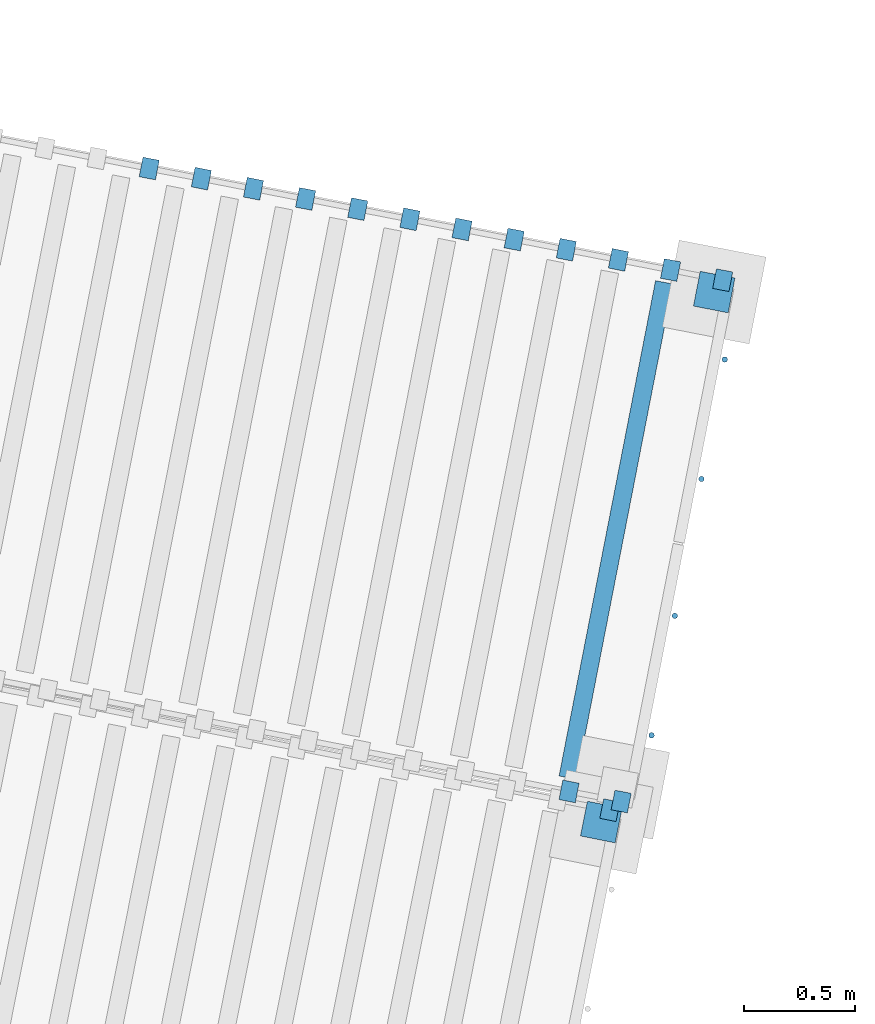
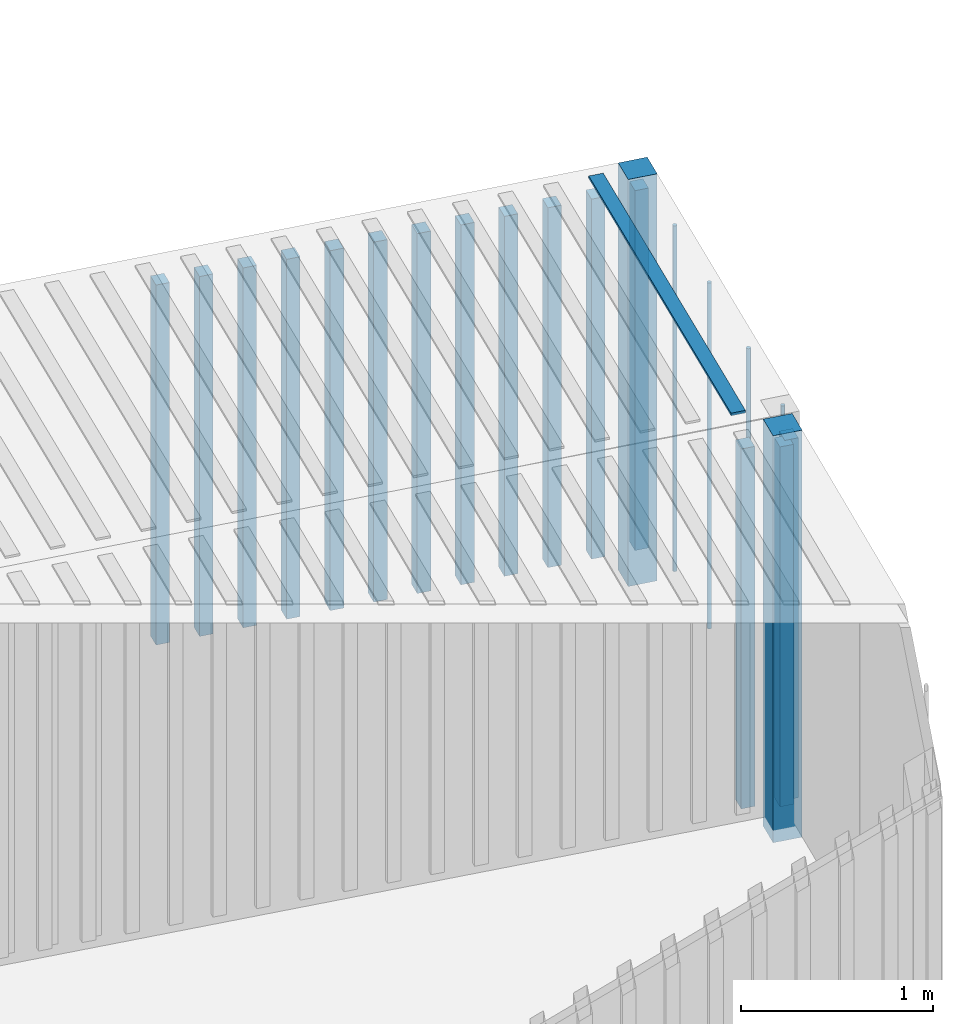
# One storey, part 83 of 131: 22 members, 2 elements without a shape of their own.
"""IFC4 building model written with IfcOpenShell, lengths in metres."""

from ifc_helpers import new_model, si_unit, direction, frame, origin_with_axes, place, context, subcontext, project, spatial, polyline, circle, outline, extrude, material, material_profile, profile_set, profile_usage, type_object, element, aggregate, save


model = new_model("IFC4")

# Units and contexts
model_context = context("Model", 3, precision=1e-05, world=origin_with_axes(), true_north=direction((0.0, 1.0)))
body_context = subcontext(model_context, "Body", "Model", "MODEL_VIEW")
ifc_project = project(units=[si_unit("VOLUMEUNIT", "CUBIC_METRE"), si_unit("LENGTHUNIT", "METRE"), si_unit("AREAUNIT", "SQUARE_METRE")], contexts=[model_context])

# Site, building, storey
site_placement = place(None, origin_with_axes())
site = spatial("IfcSite", under=ifc_project, at=site_placement, Name="Lares · Rua das Mercês · artigo 4771")
building_placement = place(site_placement, frame((15.0, 9.7, 14.65), z_axis=(0.0, 0.0, 1.0), x_axis=(0.989015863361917, -0.147809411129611, 0.0)))
building = spatial("IfcBuilding", under=site, at=building_placement, Name="Casa Sobreposta")
storey_placement = place(building_placement, origin_with_axes())
storey = spatial("IfcBuildingStorey", under=building, at=storey_placement, Name="00 · Habitação e estacionamento", Elevation=14.65)

# Assembly, members
assembly_1_placement = place(storey_placement, frame((-14.4335953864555, 9.04888612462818, 0.0), z_axis=(0.0, 0.0, 1.0), x_axis=(0.999032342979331, -0.0439815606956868, 0.0)))
assembly_1 = element("IfcElementAssembly", 1, at=assembly_1_placement, inside=storey, Name="Contentor existente 1 · 6 m", ObjectType="EXISTING_SHIPPING_CONTAINER", PredefinedType="USERDEFINED")
ifc_material_1 = material(Name="Aço galvanizado / Stahl verzinkt", Category="steel")
ifc_material_profile = material_profile(ifc_material_1, circle(Radius=0.0125))
ifc_profile_set = profile_set([ifc_material_profile], Name="D0.025")
ifc_profile_usage_1 = profile_usage(ifc_profile_set)
member_type = type_object("IfcMemberType", Name="D0.025 / galvanized", PredefinedType="NOTDEFINED", material=ifc_profile_set)
member_1_placement = place(assembly_1_placement, frame((6.025, 0.34, -1.1), z_axis=(0.0, 0.0, 1.0), x_axis=(1.0, 0.0, 0.0)))
member_1 = element("IfcMember", 2, at=member_1_placement, type_object=member_type, material=ifc_profile_usage_1, Name="Contentor · varão de fecho", context=body_context, shape_type="SweptSolid", body=[
    extrude(circle(Radius=0.0125), origin_with_axes(), (0.0, 0.0, 1.0), 2.2),
])
ifc_profile_usage_2 = profile_usage(ifc_profile_set)
member_2_placement = place(assembly_1_placement, frame((6.025, 0.89, -1.1), z_axis=(0.0, 0.0, 1.0), x_axis=(1.0, 0.0, 0.0)))
member_2 = element("IfcMember", 3, at=member_2_placement, type_object=member_type, material=ifc_profile_usage_2, Name="Contentor · varão de fecho", context=body_context, shape_type="SweptSolid", body=[
    extrude(circle(Radius=0.0125), origin_with_axes(), (0.0, 0.0, 1.0), 2.2),
])
ifc_profile_usage_3 = profile_usage(ifc_profile_set)
member_3_placement = place(assembly_1_placement, frame((6.025, 1.52, -1.1), z_axis=(0.0, 0.0, 1.0), x_axis=(1.0, 0.0, 0.0)))
member_3 = element("IfcMember", 4, at=member_3_placement, type_object=member_type, material=ifc_profile_usage_3, Name="Contentor · varão de fecho", context=body_context, shape_type="SweptSolid", body=[
    extrude(circle(Radius=0.0125), origin_with_axes(), (0.0, 0.0, 1.0), 2.2),
])
ifc_profile_usage_4 = profile_usage(ifc_profile_set)
member_4_placement = place(assembly_1_placement, frame((6.025, 2.07, -1.1), z_axis=(0.0, 0.0, 1.0), x_axis=(1.0, 0.0, 0.0)))
member_4 = element("IfcMember", 5, at=member_4_placement, type_object=member_type, material=ifc_profile_usage_4, Name="Contentor · varão de fecho", context=body_context, shape_type="SweptSolid", body=[
    extrude(circle(Radius=0.0125), origin_with_axes(), (0.0, 0.0, 1.0), 2.2),
])
ifc_material_2 = material(Name="Contentor · pintura 1", Category="steel")
member_5_placement = place(assembly_1_placement, frame((0.0, 0.0, -1.3), z_axis=(0.0, 0.0, 1.0), x_axis=(1.0, 0.0, 0.0)))
member_5 = element("IfcMember", 6, at=member_5_placement, material=ifc_material_2, Name="Contentor · canto", context=body_context, shape_type="SweptSolid", body=[
    extrude(outline(polyline([(6.0, 2.28), (6.0, 2.44), (5.84, 2.44), (5.84, 2.28), (6.0, 2.28)])), origin_with_axes(), (0.0, 0.0, 1.0), 2.59),
])
member_6_placement = place(assembly_1_placement, frame((0.0, 0.0, -1.15), z_axis=(0.0, 0.0, 1.0), x_axis=(1.0, 0.0, 0.0)))
member_6 = element("IfcMember", 7, at=member_6_placement, material=ifc_material_2, Name="Contentor · nervura lateral", context=body_context, shape_type="SweptSolid", body=[
    extrude(outline(polyline([(5.745, -0.025), (5.745, 0.065), (5.67, 0.065), (5.67, -0.025), (5.745, -0.025)])), origin_with_axes(), (0.0, 0.0, 1.0), 2.29),
])
member_7_placement = place(assembly_1_placement, frame((0.0, 0.0, -1.15), z_axis=(0.0, 0.0, 1.0), x_axis=(1.0, 0.0, 0.0)))
member_7 = element("IfcMember", 8, at=member_7_placement, material=ifc_material_2, Name="Contentor · nervura lateral", context=body_context, shape_type="SweptSolid", body=[
    extrude(outline(polyline([(5.985, -0.025), (5.985, 0.065), (5.91, 0.065), (5.91, -0.025), (5.985, -0.025)])), origin_with_axes(), (0.0, 0.0, 1.0), 2.29),
])
member_8_placement = place(assembly_1_placement, frame((0.0, 0.0, -1.15), z_axis=(0.0, 0.0, 1.0), x_axis=(1.0, 0.0, 0.0)))
member_8 = element("IfcMember", 9, at=member_8_placement, material=ifc_material_2, Name="Contentor · nervura lateral", context=body_context, shape_type="SweptSolid", body=[
    extrude(outline(polyline([(3.345, 2.375), (3.345, 2.465), (3.27, 2.465), (3.27, 2.375), (3.345, 2.375)])), origin_with_axes(), (0.0, 0.0, 1.0), 2.29),
])
member_9_placement = place(assembly_1_placement, frame((0.0, 0.0, -1.15), z_axis=(0.0, 0.0, 1.0), x_axis=(1.0, 0.0, 0.0)))
member_9 = element("IfcMember", 10, at=member_9_placement, material=ifc_material_2, Name="Contentor · nervura lateral", context=body_context, shape_type="SweptSolid", body=[
    extrude(outline(polyline([(3.585, 2.375), (3.585, 2.465), (3.51, 2.465), (3.51, 2.375), (3.585, 2.375)])), origin_with_axes(), (0.0, 0.0, 1.0), 2.29),
])
member_10_placement = place(assembly_1_placement, frame((0.0, 0.0, -1.15), z_axis=(0.0, 0.0, 1.0), x_axis=(1.0, 0.0, 0.0)))
member_10 = element("IfcMember", 11, at=member_10_placement, material=ifc_material_2, Name="Contentor · nervura lateral", context=body_context, shape_type="SweptSolid", body=[
    extrude(outline(polyline([(3.825, 2.375), (3.825, 2.465), (3.75, 2.465), (3.75, 2.375), (3.825, 2.375)])), origin_with_axes(), (0.0, 0.0, 1.0), 2.29),
])
member_11_placement = place(assembly_1_placement, frame((0.0, 0.0, -1.15), z_axis=(0.0, 0.0, 1.0), x_axis=(1.0, 0.0, 0.0)))
member_11 = element("IfcMember", 12, at=member_11_placement, material=ifc_material_2, Name="Contentor · nervura lateral", context=body_context, shape_type="SweptSolid", body=[
    extrude(outline(polyline([(4.065, 2.375), (4.065, 2.465), (3.99, 2.465), (3.99, 2.375), (4.065, 2.375)])), origin_with_axes(), (0.0, 0.0, 1.0), 2.29),
])
member_12_placement = place(assembly_1_placement, frame((0.0, 0.0, -1.15), z_axis=(0.0, 0.0, 1.0), x_axis=(1.0, 0.0, 0.0)))
member_12 = element("IfcMember", 13, at=member_12_placement, material=ifc_material_2, Name="Contentor · nervura lateral", context=body_context, shape_type="SweptSolid", body=[
    extrude(outline(polyline([(4.305, 2.375), (4.305, 2.465), (4.23, 2.465), (4.23, 2.375), (4.305, 2.375)])), origin_with_axes(), (0.0, 0.0, 1.0), 2.29),
])
member_13_placement = place(assembly_1_placement, frame((0.0, 0.0, -1.15), z_axis=(0.0, 0.0, 1.0), x_axis=(1.0, 0.0, 0.0)))
member_13 = element("IfcMember", 14, at=member_13_placement, material=ifc_material_2, Name="Contentor · nervura lateral", context=body_context, shape_type="SweptSolid", body=[
    extrude(outline(polyline([(4.545, 2.375), (4.545, 2.465), (4.47, 2.465), (4.47, 2.375), (4.545, 2.375)])), origin_with_axes(), (0.0, 0.0, 1.0), 2.29),
])
member_14_placement = place(assembly_1_placement, frame((0.0, 0.0, -1.15), z_axis=(0.0, 0.0, 1.0), x_axis=(1.0, 0.0, 0.0)))
member_14 = element("IfcMember", 15, at=member_14_placement, material=ifc_material_2, Name="Contentor · nervura lateral", context=body_context, shape_type="SweptSolid", body=[
    extrude(outline(polyline([(4.785, 2.375), (4.785, 2.465), (4.71, 2.465), (4.71, 2.375), (4.785, 2.375)])), origin_with_axes(), (0.0, 0.0, 1.0), 2.29),
])
member_15_placement = place(assembly_1_placement, frame((0.0, 0.0, -1.15), z_axis=(0.0, 0.0, 1.0), x_axis=(1.0, 0.0, 0.0)))
member_15 = element("IfcMember", 16, at=member_15_placement, material=ifc_material_2, Name="Contentor · nervura lateral", context=body_context, shape_type="SweptSolid", body=[
    extrude(outline(polyline([(5.025, 2.375), (5.025, 2.465), (4.95, 2.465), (4.95, 2.375), (5.025, 2.375)])), origin_with_axes(), (0.0, 0.0, 1.0), 2.29),
])
member_16_placement = place(assembly_1_placement, frame((0.0, 0.0, -1.15), z_axis=(0.0, 0.0, 1.0), x_axis=(1.0, 0.0, 0.0)))
member_16 = element("IfcMember", 17, at=member_16_placement, material=ifc_material_2, Name="Contentor · nervura lateral", context=body_context, shape_type="SweptSolid", body=[
    extrude(outline(polyline([(5.265, 2.375), (5.265, 2.465), (5.19, 2.465), (5.19, 2.375), (5.265, 2.375)])), origin_with_axes(), (0.0, 0.0, 1.0), 2.29),
])
member_17_placement = place(assembly_1_placement, frame((0.0, 0.0, -1.15), z_axis=(0.0, 0.0, 1.0), x_axis=(1.0, 0.0, 0.0)))
member_17 = element("IfcMember", 18, at=member_17_placement, material=ifc_material_2, Name="Contentor · nervura lateral", context=body_context, shape_type="SweptSolid", body=[
    extrude(outline(polyline([(5.505, 2.375), (5.505, 2.465), (5.43, 2.465), (5.43, 2.375), (5.505, 2.375)])), origin_with_axes(), (0.0, 0.0, 1.0), 2.29),
])
member_18_placement = place(assembly_1_placement, frame((0.0, 0.0, -1.15), z_axis=(0.0, 0.0, 1.0), x_axis=(1.0, 0.0, 0.0)))
member_18 = element("IfcMember", 19, at=member_18_placement, material=ifc_material_2, Name="Contentor · nervura lateral", context=body_context, shape_type="SweptSolid", body=[
    extrude(outline(polyline([(5.745, 2.375), (5.745, 2.465), (5.67, 2.465), (5.67, 2.375), (5.745, 2.375)])), origin_with_axes(), (0.0, 0.0, 1.0), 2.29),
])
member_19_placement = place(assembly_1_placement, frame((0.0, 0.0, -1.15), z_axis=(0.0, 0.0, 1.0), x_axis=(1.0, 0.0, 0.0)))
member_19 = element("IfcMember", 20, at=member_19_placement, material=ifc_material_2, Name="Contentor · nervura lateral", context=body_context, shape_type="SweptSolid", body=[
    extrude(outline(polyline([(5.985, 2.375), (5.985, 2.465), (5.91, 2.465), (5.91, 2.375), (5.985, 2.375)])), origin_with_axes(), (0.0, 0.0, 1.0), 2.29),
])
member_20_placement = place(assembly_1_placement, frame((0.0, 0.0, 1.285), z_axis=(0.0, 0.0, 1.0), x_axis=(1.0, 0.0, 0.0)))
member_20 = element("IfcMember", 21, at=member_20_placement, material=ifc_material_2, Name="Contentor · nervura cobertura", context=body_context, shape_type="SweptSolid", body=[
    extrude(outline(polyline([(5.73, 0.08), (5.73, 2.36), (5.65, 2.36), (5.65, 0.08), (5.73, 0.08)])), origin_with_axes(), (0.0, 0.0, 1.0), 0.018),
])
aggregate(assembly_1, [member_5, member_6, member_7, member_8, member_9, member_10, member_11, member_12, member_13, member_14, member_15, member_16, member_17, member_18, member_19, member_1, member_2, member_3, member_4, member_20])

assembly_2_placement = place(storey_placement, frame((-14.5932944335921, 6.63122214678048, 0.0), z_axis=(0.0, 0.0, 1.0), x_axis=(0.998832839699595, -0.0483007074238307, 0.0)))
assembly_2 = element("IfcElementAssembly", 22, at=assembly_2_placement, inside=storey, Name="Contentor existente 2 · 6 m", ObjectType="EXISTING_SHIPPING_CONTAINER", PredefinedType="USERDEFINED")
ifc_material_3 = material(Name="Contentor · pintura 2", Category="steel")
member_21_placement = place(assembly_2_placement, frame((0.0, 0.0, -1.3), z_axis=(0.0, 0.0, 1.0), x_axis=(1.0, 0.0, 0.0)))
member_21 = element("IfcMember", 23, at=member_21_placement, material=ifc_material_3, Name="Contentor · canto", context=body_context, shape_type="SweptSolid", body=[
    extrude(outline(polyline([(6.0, 2.28), (6.0, 2.44), (5.84, 2.44), (5.84, 2.28), (6.0, 2.28)])), origin_with_axes(), (0.0, 0.0, 1.0), 2.59),
])
member_22_placement = place(assembly_2_placement, frame((0.0, 0.0, -1.15), z_axis=(0.0, 0.0, 1.0), x_axis=(1.0, 0.0, 0.0)))
member_22 = element("IfcMember", 24, at=member_22_placement, material=ifc_material_3, Name="Contentor · nervura lateral", context=body_context, shape_type="SweptSolid", body=[
    extrude(outline(polyline([(5.985, 2.375), (5.985, 2.465), (5.91, 2.465), (5.91, 2.375), (5.985, 2.375)])), origin_with_axes(), (0.0, 0.0, 1.0), 2.29),
])
aggregate(assembly_2, [member_21, member_22])

save(model, "model.ifc")
